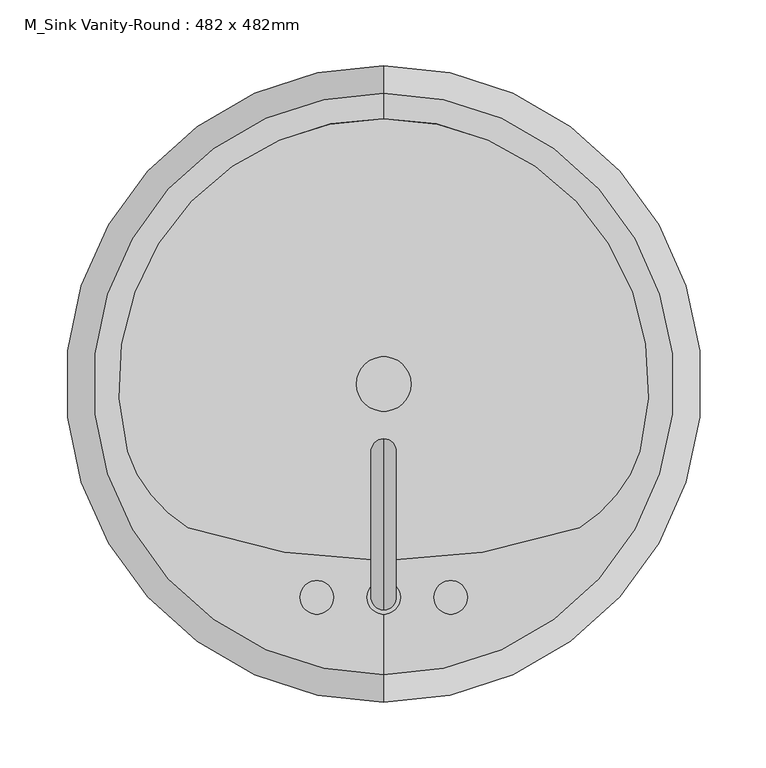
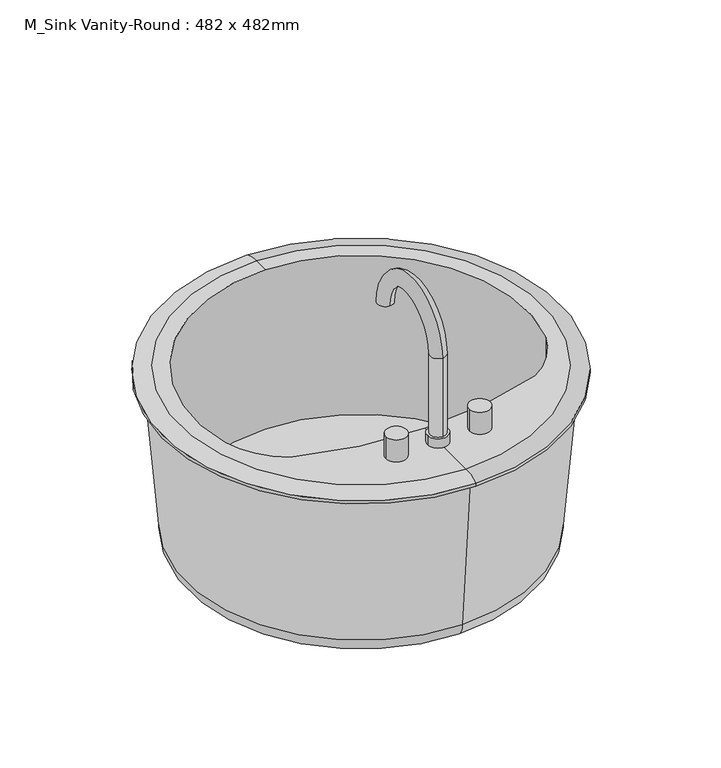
"""IFC4 building model written with IfcOpenShell, lengths in millimetres: flow terminal geometry, M_Sink Vanity-Round : 482 x 482mm."""

from ifc_helpers import new_model, si_unit, point, frame, frame_2d, origin, place, context, project, spatial, polyline, circle_curve, ellipse_curve, trimmed, segment, composite_curve, outline, extrude, source, transform, mapped, element, save
from ifc_brep_helpers import plane_surface, cylinder_surface, revolved_surface, advanced_brep


def m_sink_vanity_round_482_x_482mm_b62b67b0(model_context):
    return source(origin(), model_context, "Body", "SolidModel", [
        extrude(outline(composite_curve([segment(trimmed(circle_curve(frame_2d((96.6517406, -85.1677185)), 20.6375), [point((76.0142406, -85.1677185))], [point((117.2892406, -85.1677185))], False, "CARTESIAN"), True, "CONTINUOUS"), segment(trimmed(circle_curve(frame_2d((96.6517406, -85.1677185)), 20.6375), [point((117.2892406, -85.1677185))], [point((76.0142406, -85.1677185))], False, "CARTESIAN"), True, "CONTINUOUS")], self_intersect=False)), frame((0.0, 0.0, 534.19), z_axis=(0.0, 0.0, 1.0), x_axis=(1.0, 0.0, 0.0)), (0.0, 0.0, 1.0), 21.1842611),
        advanced_brep(
        [(96.6517406, 135.3870093, 759.615), (96.6517406, 156.1322815, 754.05875), (96.6517406, -326.4677185, 754.05875), (96.6517406, -305.7224463, 759.615), (96.6517406, -219.2662048, 759.615), (-52.1534933, -194.0861398, 759.615), (-98.1703414, -136.2525038, 759.615), (96.6517406, 116.2405705, 759.615), (291.4738225, -136.2525038, 759.615), (245.4569744, -194.0861398, 759.615), (96.6517406, 107.1264028, 534.19), (96.6517406, -85.1677185, 534.19), (96.6517406, -277.4618398, 534.19), (96.6517406, -298.0181731, 555.3742611), (96.6517406, 127.6827361, 555.3742611), (96.6517406, -314.5614685, 750.09), (96.6517406, 144.2260315, 750.09), (96.6517406, -326.4677185, 750.09), (96.6517406, 156.1322815, 750.09), (245.4569744, -194.0861398, 555.3742611), (291.4738225, -136.2525038, 555.3742611), (-98.1703414, -136.2525038, 555.3742611), (-52.1534933, -194.0861398, 555.3742611)],
        [
            (0, 1, circle_curve(frame((96.6517406, 139.1020246, 731.979434), z_axis=(-1.0, 0.0, 0.0), x_axis=(0.0, 1.0, 0.0)), 27.8841505)),
            (1, 2, circle_curve(frame((96.6517406, -85.1677185, 754.05875), z_axis=(0.0, 0.0, 1.0), x_axis=(0.0, -1.0, 0.0)), 241.3)),
            (2, 3, circle_curve(frame((96.6517406, -309.4374616, 731.979434), z_axis=(-1.0, 0.0, 0.0), x_axis=(0.0, -1.0, 0.0)), 27.8841505)),
            (3, 0, circle_curve(frame((96.6517406, -85.1677185, 759.615), z_axis=(0.0, 0.0, -1.0), x_axis=(0.0, -1.0, 0.0)), 220.5547278)),
            (2, 1, circle_curve(frame((96.6517406, -85.1677185, 754.05875), z_axis=(0.0, 0.0, 1.0), x_axis=(0.0, -1.0, 0.0)), 241.3)),
            (0, 3, circle_curve(frame((96.6517406, -85.1677185, 759.615), z_axis=(0.0, 0.0, -1.0), x_axis=(0.0, -1.0, 0.0)), 220.5547278)),
            (3, 4),
            (4, 5, circle_curve(frame((96.6517406, 233.0168462, 759.615), z_axis=(0.0, 0.0, -1.0), x_axis=(1.0, 0.0, 0.0)), 452.283051)),
            (5, 6, circle_curve(frame((1.3689689, -104.2755165, 759.615), z_axis=(0.0, 0.0, -1.0), x_axis=(1.0, 0.0, 0.0)), 104.5495194)),
            (6, 7, circle_curve(frame((96.6517406, -85.1677185, 759.615), z_axis=(0.0, 0.0, -1.0), x_axis=(1.0, 0.0, 0.0)), 201.408289)),
            (7, 0),
            (7, 8, circle_curve(frame((96.6517406, -85.1677185, 759.615), z_axis=(0.0, 0.0, -1.0), x_axis=(1.0, 0.0, 0.0)), 201.408289)),
            (8, 9, circle_curve(frame((191.9345122, -104.2755165, 759.615), z_axis=(0.0, 0.0, -1.0), x_axis=(1.0, 0.0, 0.0)), 104.5495194)),
            (9, 4, circle_curve(frame((96.6517406, 233.0168462, 759.615), z_axis=(0.0, 0.0, -1.0), x_axis=(1.0, 0.0, 0.0)), 452.283051)),
            (10, 11),
            (11, 12),
            (12, 10, circle_curve(frame((96.6517406, -85.1677185, 534.19), z_axis=(0.0, 0.0, -1.0), x_axis=(0.0, -1.0, 0.0)), 192.2941213)),
            (10, 12, circle_curve(frame((96.6517406, -85.1677185, 534.19), z_axis=(0.0, 0.0, -1.0), x_axis=(0.0, -1.0, 0.0)), 192.2941213)),
            (12, 13, circle_curve(frame((96.6517406, -277.4618398, 554.7556396), z_axis=(-1.0, 0.0, 0.0), x_axis=(0.0, -1.0, 0.0)), 20.5656396)),
            (13, 14, circle_curve(frame((96.6517406, -85.1677185, 555.3742611), z_axis=(0.0, 0.0, -1.0), x_axis=(0.0, -1.0, 0.0)), 212.8504546)),
            (14, 10, circle_curve(frame((96.6517406, 107.1264028, 554.7556396), z_axis=(-1.0, 0.0, 0.0), x_axis=(0.0, 1.0, 0.0)), 20.5656396)),
            (14, 13, circle_curve(frame((96.6517406, -85.1677185, 555.3742611), z_axis=(0.0, 0.0, -1.0), x_axis=(0.0, -1.0, 0.0)), 212.8504546)),
            (13, 15),
            (15, 16, circle_curve(frame((96.6517406, -85.1677185, 750.09), z_axis=(0.0, 0.0, -1.0), x_axis=(0.0, -1.0, 0.0)), 229.39375)),
            (16, 14),
            (16, 15, circle_curve(frame((96.6517406, -85.1677185, 750.09), z_axis=(0.0, 0.0, -1.0), x_axis=(0.0, -1.0, 0.0)), 229.39375)),
            (15, 17),
            (17, 18, circle_curve(frame((96.6517406, -85.1677185, 750.09), z_axis=(0.0, 0.0, -1.0), x_axis=(0.0, -1.0, 0.0)), 241.3)),
            (18, 16),
            (18, 17, circle_curve(frame((96.6517406, -85.1677185, 750.09), z_axis=(0.0, 0.0, -1.0), x_axis=(0.0, -1.0, 0.0)), 241.3)),
            (1, 18),
            (17, 2),
            (19, 20, circle_curve(frame((191.9345122, -104.2755165, 555.3742611), z_axis=(0.0, 0.0, 1.0), x_axis=(1.0, 0.0, 0.0)), 104.5495194)),
            (20, 21, circle_curve(frame((96.6517406, -85.1677185, 555.3742611), z_axis=(0.0, 0.0, 1.0), x_axis=(1.0, 0.0, 0.0)), 201.408289)),
            (21, 22, circle_curve(frame((1.3689689, -104.2755165, 555.3742611), z_axis=(0.0, 0.0, 1.0), x_axis=(1.0, 0.0, 0.0)), 104.5495194)),
            (22, 19, circle_curve(frame((96.6517406, 233.0168462, 555.3742611), z_axis=(0.0, 0.0, 1.0), x_axis=(1.0, 0.0, 0.0)), 452.283051)),
            (22, 5),
            (9, 19),
            (21, 6),
            (20, 8),
        ],
        [
            revolved_surface(trimmed(ellipse_curve(frame((96.6517406, -309.4374616, 731.979434), z_axis=(-1.0, 0.0, 0.0), x_axis=(0.0, -1.0, 0.0)), 27.8841505, 27.8841505), [point((96.6517406, -326.4677185, 754.05875))], [point((96.6517406, -305.7224463, 759.615))], True, "CARTESIAN"), (96.6517406, -85.1677185, 759.615), (0.0, 0.0, 1.0)),
            plane_surface(frame((96.6517406, -85.1677185, 759.615), z_axis=(0.0, 0.0, 1.0), x_axis=(0.0, -1.0, 0.0))),
            plane_surface(frame((96.6517406, -85.1677185, 534.19), z_axis=(0.0, 0.0, -1.0), x_axis=(0.0, -1.0, 0.0))),
            revolved_surface(trimmed(ellipse_curve(frame((96.6517406, -277.4618398, 554.7556396), z_axis=(-1.0, 0.0, 0.0), x_axis=(0.0, -1.0, 0.0)), 20.5656396, 20.5656396), [point((96.6517406, -277.4618398, 534.19))], [point((96.6517406, -298.0181731, 555.3742611))], True, "CARTESIAN"), (96.6517406, -85.1677185, 759.615), (0.0, 0.0, 1.0)),
            revolved_surface(polyline([(96.6517406, -298.0181731, 555.3742611), (96.6517406, -314.5614685, 750.09)]), (96.6517406, -85.1677185, 759.615), (0.0, 0.0, 1.0)),
            plane_surface(frame((96.6517406, -85.1677185, 750.09), z_axis=(0.0, 0.0, -1.0), x_axis=(0.0, -1.0, 0.0))),
            cylinder_surface(frame((96.6517406, -85.1677185, 759.615), z_axis=(0.0, 0.0, 1.0), x_axis=(0.0, -1.0, 0.0)), 241.3),
            plane_surface(frame((548.9347916, 233.0168462, 555.3742611), z_axis=(0.0, 0.0, 1.0), x_axis=(0.0, 1.0, 0.0))),
            revolved_surface(polyline([(548.9347916, 233.0168462, 759.615), (548.9347916, 233.0168462, 555.3742611)]), (96.6517406, 233.0168462, 555.3742611), (0.0, 0.0, 1.0)),
            revolved_surface(polyline([(105.91848829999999, -104.2755165, 759.615), (105.91848829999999, -104.2755165, 555.3742611)]), (1.3689689, -104.2755165, 555.3742611), (0.0, 0.0, 1.0)),
            revolved_surface(polyline([(298.0600296, -85.1677185, 759.615), (298.0600296, -85.1677185, 555.3742611)]), (96.6517406, -85.1677185, 555.3742611), (0.0, 0.0, 1.0)),
            revolved_surface(polyline([(296.4840316, -104.2755165, 759.615), (296.4840316, -104.2755165, 555.3742611)]), (191.9345122, -104.2755165, 555.3742611), (0.0, 0.0, 1.0)),
        ],
        [
            (0, [[1, 2, 3, 4]]),
            (0, [[5, -1, 6, -3]]),
            (1, [[7, 8, 9, 10, 11, -4]]),
            (1, [[-11, 12, 13, 14, -7, -6]]),
            (2, [[15, 16, 17]]),
            (2, [[-15, 18, -16]]),
            (3, [[19, 20, 21, -17]]),
            (3, [[-21, 22, -19, -18]]),
            (4, [[23, 24, 25, -20]]),
            (4, [[-25, 26, -23, -22]]),
            (5, [[27, 28, 29, -24]]),
            (5, [[-29, 30, -27, -26]]),
            (6, [[31, -28, 32, -2]]),
            (6, [[-32, -30, -31, -5]]),
            (7, [[33, 34, 35, 36]]),
            (8, [[37, -8, -14, 38, -36]]),
            (9, [[39, -9, -37, -35]]),
            (10, [[40, -12, -10, -39, -34]]),
            (11, [[-38, -13, -40, -33]]),
        ],
    ),
        advanced_brep(
        [(83.9517406, -247.0927185, 771.8502909), (109.3517406, -247.0927185, 771.8502909), (96.6517406, -237.5677185, 771.8502909), (96.6517406, -256.6177185, 771.8502909), (83.9517406, -247.0927185, 759.615), (109.3517406, -247.0927185, 759.615), (96.6517406, -237.5677185, 872.3275), (96.6517406, -256.6177185, 872.3275), (96.6517406, -145.7775038, 872.3275), (96.6517406, -126.7275038, 872.3275)],
        [
            (0, 1, circle_curve(frame((96.6517406, -247.0927185, 771.8502909), z_axis=(0.0, 0.0, 1.0), x_axis=(1.0, 0.0, 0.0)), 12.7)),
            (1, 0, circle_curve(frame((96.6517406, -247.0927185, 771.8502909), z_axis=(0.0, 0.0, 1.0), x_axis=(1.0, 0.0, 0.0)), 12.7)),
            (2, 3, circle_curve(frame((96.6517406, -247.0927185, 771.8502909), z_axis=(0.0, 0.0, -1.0), x_axis=(0.0, -1.0, 0.0)), 9.525)),
            (3, 2, circle_curve(frame((96.6517406, -247.0927185, 771.8502909), z_axis=(0.0, 0.0, -1.0), x_axis=(0.0, -1.0, 0.0)), 9.525)),
            (4, 5, circle_curve(frame((96.6517406, -247.0927185, 759.615), z_axis=(0.0, 0.0, -1.0), x_axis=(1.0, 0.0, 0.0)), 12.7)),
            (5, 4, circle_curve(frame((96.6517406, -247.0927185, 759.615), z_axis=(0.0, 0.0, -1.0), x_axis=(1.0, 0.0, 0.0)), 12.7)),
            (1, 5),
            (4, 0),
            (6, 2),
            (3, 7),
            (7, 6, circle_curve(frame((96.6517406, -247.0927185, 872.3275), z_axis=(0.0, 0.0, -1.0), x_axis=(0.0, -1.0, 0.0)), 9.525)),
            (6, 7, circle_curve(frame((96.6517406, -247.0927185, 872.3275), z_axis=(0.0, 0.0, -1.0), x_axis=(0.0, -1.0, 0.0)), 9.525)),
            (8, 9, circle_curve(frame((96.6517406, -136.2525038, 872.3275), z_axis=(0.0, 0.0, -1.0), x_axis=(0.0, 1.0, 0.0)), 9.525)),
            (9, 8, circle_curve(frame((96.6517406, -136.2525038, 872.3275), z_axis=(0.0, 0.0, -1.0), x_axis=(0.0, 1.0, 0.0)), 9.525)),
            (7, 9, circle_curve(frame((96.6517406, -191.6726112, 872.3275), z_axis=(-1.0, 0.0, 0.0), x_axis=(0.0, -1.0, 0.0)), 64.9451073)),
            (8, 6, circle_curve(frame((96.6517406, -191.6726112, 872.3275), z_axis=(1.0, 0.0, 0.0), x_axis=(0.0, -1.0, 0.0)), 45.8951073)),
        ],
        [
            plane_surface(frame((109.3517406, -247.0927185, 771.8502909), z_axis=(0.0, 0.0, 1.0), x_axis=(0.0, -1.0, 0.0))),
            plane_surface(frame((109.3517406, -247.0927185, 759.615), z_axis=(0.0, 0.0, -1.0), x_axis=(0.0, 1.0, 0.0))),
            cylinder_surface(frame((96.6517406, -247.0927185, 759.615), z_axis=(0.0, 0.0, 1.0), x_axis=(1.0, 0.0, 0.0)), 12.7),
            cylinder_surface(frame((96.6517406, -247.0927185, 759.615), z_axis=(0.0, 0.0, -1.0), x_axis=(0.0, -1.0, 0.0)), 9.525),
            plane_surface(frame((96.6517406, -191.6726112, 872.3275), z_axis=(0.0, 0.0, -1.0), x_axis=(0.0, 1.0, 0.0))),
            revolved_surface(trimmed(ellipse_curve(frame((96.6517406, -247.0927185, 872.3275), z_axis=(0.0, 0.0, 1.0), x_axis=(0.0, -1.0, 0.0)), 9.525, 9.525), [point((96.6517406, -237.5677185, 872.3275))], [point((96.6517406, -256.6177185, 872.3275))], True, "CARTESIAN"), (96.6517406, -191.6726112, 872.3275), (1.0, 0.0, 0.0)),
            revolved_surface(trimmed(ellipse_curve(frame((96.6517406, -247.0927185, 872.3275), z_axis=(0.0, 0.0, 1.0), x_axis=(0.0, -1.0, 0.0)), 9.525, 9.525), [point((96.6517406, -256.6177185, 872.3275))], [point((96.6517406, -237.5677185, 872.3275))], True, "CARTESIAN"), (96.6517406, -191.6726112, 872.3275), (1.0, 0.0, 0.0)),
        ],
        [
            (0, [[1, 2], [3, 4]]),
            (1, [[5, 6]]),
            (2, [[7, -5, 8, -2]]),
            (2, [[-8, -6, -7, -1]]),
            (3, [[9, -4, 10, 11]]),
            (3, [[-10, -3, -9, 12]]),
            (4, [[13, 14]]),
            (5, [[15, -13, 16, -11]]),
            (6, [[-16, -14, -15, -12]]),
        ],
    ),
        extrude(outline(composite_curve([segment(trimmed(circle_curve(frame_2d((45.8517406, -247.0927185)), 12.7), [point((33.1517406, -247.0927185))], [point((58.5517406, -247.0927185))], False, "CARTESIAN"), True, "CONTINUOUS"), segment(trimmed(circle_curve(frame_2d((45.8517406, -247.0927185)), 12.7), [point((58.5517406, -247.0927185))], [point((33.1517406, -247.0927185))], False, "CARTESIAN"), True, "CONTINUOUS")], self_intersect=False)), frame((0.0, 0.0, 759.615), z_axis=(0.0, 0.0, 1.0), x_axis=(1.0, 0.0, 0.0)), (0.0, 0.0, 1.0), 28.575),
        extrude(outline(composite_curve([segment(trimmed(circle_curve(frame_2d((147.4517406, -247.0927185)), 12.7), [point((134.7517406, -247.0927185))], [point((160.1517406, -247.0927185))], False, "CARTESIAN"), True, "CONTINUOUS"), segment(trimmed(circle_curve(frame_2d((147.4517406, -247.0927185)), 12.7), [point((160.1517406, -247.0927185))], [point((134.7517406, -247.0927185))], False, "CARTESIAN"), True, "CONTINUOUS")], self_intersect=False)), frame((0.0, 0.0, 759.615), z_axis=(0.0, 0.0, 1.0), x_axis=(1.0, 0.0, 0.0)), (0.0, 0.0, 1.0), 28.575),
    ])


if __name__ == "__main__":
    model = new_model("IFC4")
    model_context = context("Model", 3, world=origin())
    ifc_project = project(units=[si_unit("LENGTHUNIT", "METRE", prefix="MILLI")], contexts=[model_context])
    site = spatial("IfcSite", under=ifc_project)
    building = spatial("IfcBuilding", under=site)
    placement = place(None, origin())
    m_sink_vanity_round_482_x_482mm_shape = m_sink_vanity_round_482_x_482mm_b62b67b0(model_context)
    element("IfcFlowTerminal", 1, ObjectType="M_Sink Vanity-Round : 482 x 482mm", at=placement, inside=building, context=model_context, shape_type="MappedRepresentation", body=[
        mapped(m_sink_vanity_round_482_x_482mm_shape, transform((0.0, 0.0, 0.0), x_axis=(1.0, 0.0, 0.0), y_axis=(0.0, 1.0, 0.0), z_axis=(0.0, 0.0, 1.0))),
    ])
    save(model, "model.ifc")
